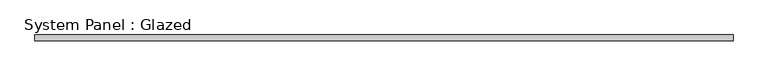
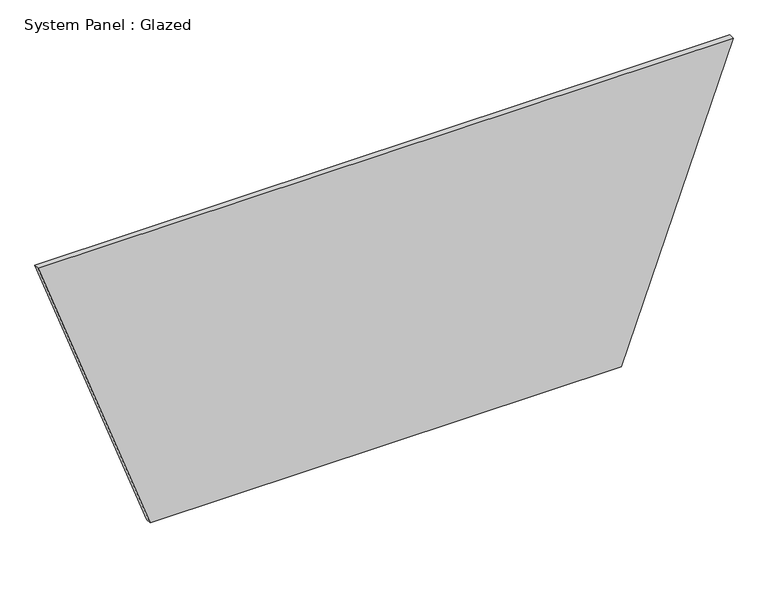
"""IFC4 building model written with IfcOpenShell, lengths in millimetres: plate geometry, System Panel : Glazed."""

from ifc_helpers import new_model, si_unit, frame, origin, place, context, project, spatial, polyline, outline, extrude, source, transform, mapped, element, save


def system_panel_glazed_1b0430f5(model_context):
    return source(origin(), model_context, "Body", "SweptSolid", [
        extrude(outline(polyline([(0.0, -1038.6677488), (0.0, 1038.6677489), (1359.9749763, 1532.3480084), (1359.9749763, -1532.3480084), (0.0, -1038.6677488)])), frame((0.0, -49.5, 0.0), z_axis=(0.0, 1.0, 0.0), x_axis=(0.0, 0.0, 1.0)), (0.0, 0.0, 1.0), 25.0),
    ])


if __name__ == "__main__":
    model = new_model("IFC4")
    model_context = context("Model", 3, world=origin())
    ifc_project = project(units=[si_unit("LENGTHUNIT", "METRE", prefix="MILLI")], contexts=[model_context])
    site = spatial("IfcSite", under=ifc_project)
    building = spatial("IfcBuilding", under=site)
    placement = place(None, origin())
    system_panel_glazed_shape = system_panel_glazed_1b0430f5(model_context)
    element("IfcPlate", 1, ObjectType="System Panel : Glazed", at=placement, inside=building, context=model_context, shape_type="MappedRepresentation", body=[
        mapped(system_panel_glazed_shape, transform((0.0, 0.0, 0.0), x_axis=(1.0, 0.0, 0.0), y_axis=(0.0, 1.0, 0.0), z_axis=(0.0, 0.0, 1.0))),
    ])
    save(model, "model.ifc")
